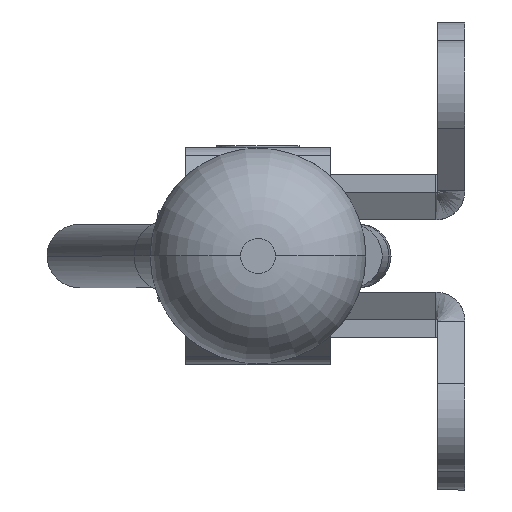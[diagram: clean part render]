
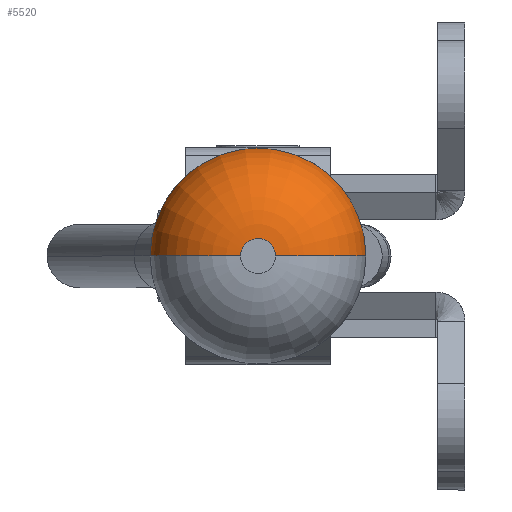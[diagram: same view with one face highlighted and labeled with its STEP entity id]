
A CAD part, left-side view. The second image highlights one B-rep face of the part: STEP entity #5520.
In plain terms, the highlighted toroidal (fillet/blend) face has major radius 1.931 mm and minor radius 10 mm.
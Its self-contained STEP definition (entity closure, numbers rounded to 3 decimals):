
#1238 = CIRCLE ( 'NONE', #6567, 10. ) ;
#2013 = ORIENTED_EDGE ( 'NONE', *, *, #7612, .F. ) ;
#2226 = ORIENTED_EDGE ( 'NONE', *, *, #11963, .F. ) ;
#3247 = CARTESIAN_POINT ( 'NONE',  ( 1.931, 0., 0. ) ) ;
#4004 = DIRECTION ( 'NONE',  ( 1., 0., 0. ) ) ;
#4209 = AXIS2_PLACEMENT_3D ( 'NONE', #4288, #8903, #4004 ) ;
#4288 = CARTESIAN_POINT ( 'NONE',  ( 0., 0., 10.314 ) ) ;
#4430 = CARTESIAN_POINT ( 'NONE',  ( -11.926, 0., 10.314 ) ) ;
#4960 = EDGE_LOOP ( 'NONE', ( #2226, #2013, #16520, #18048 ) ) ;
#5520 = ADVANCED_FACE ( 'NONE', ( #8334 ), #11702, .T. ) ;
#5685 = EDGE_CURVE ( 'NONE', #14703, #11510, #9830, .T. ) ;
#5968 = DIRECTION ( 'NONE',  ( 0., 0., -1. ) ) ;
#6567 = AXIS2_PLACEMENT_3D ( 'NONE', #13957, #15430, #16712 ) ;
#6833 = CARTESIAN_POINT ( 'NONE',  ( -1.931, 0., 0. ) ) ;
#6851 = DIRECTION ( 'NONE',  ( 1., 0., 0. ) ) ;
#7612 = EDGE_CURVE ( 'NONE', #8755, #14390, #18138, .T. ) ;
#8334 = FACE_OUTER_BOUND ( 'NONE', #4960, .T. ) ;
#8755 = VERTEX_POINT ( 'NONE', #3247 ) ;
#8903 = DIRECTION ( 'NONE',  ( 0., 0., 1. ) ) ;
#9830 = CIRCLE ( 'NONE', #4209, 11.926 ) ;
#10472 = CARTESIAN_POINT ( 'NONE',  ( 0., 0., 0. ) ) ;
#10578 = CARTESIAN_POINT ( 'NONE',  ( 11.926, 0., 10.314 ) ) ;
#11383 = AXIS2_PLACEMENT_3D ( 'NONE', #14161, #12806, #6851 ) ;
#11510 = VERTEX_POINT ( 'NONE', #10578 ) ;
#11702 = TOROIDAL_SURFACE ( 'NONE', #11383, 1.931, 10. ) ;
#11963 = EDGE_CURVE ( 'NONE', #14390, #14703, #1238, .T. ) ;
#12194 = AXIS2_PLACEMENT_3D ( 'NONE', #10472, #5968, #16436 ) ;
#12806 = DIRECTION ( 'NONE',  ( 0., 0., 1. ) ) ;
#13957 = CARTESIAN_POINT ( 'NONE',  ( -1.931, 0., 10. ) ) ;
#14160 = CIRCLE ( 'NONE', #14479, 10. ) ;
#14161 = CARTESIAN_POINT ( 'NONE',  ( 0., 0., 10. ) ) ;
#14390 = VERTEX_POINT ( 'NONE', #6833 ) ;
#14479 = AXIS2_PLACEMENT_3D ( 'NONE', #17817, #16350, #16453 ) ;
#14703 = VERTEX_POINT ( 'NONE', #4430 ) ;
#15324 = EDGE_CURVE ( 'NONE', #8755, #11510, #14160, .T. ) ;
#15430 = DIRECTION ( 'NONE',  ( 0., 1., 0. ) ) ;
#16350 = DIRECTION ( 'NONE',  ( 0., -1., 0. ) ) ;
#16436 = DIRECTION ( 'NONE',  ( 1., 0., 0. ) ) ;
#16453 = DIRECTION ( 'NONE',  ( 0., 0., -1. ) ) ;
#16520 = ORIENTED_EDGE ( 'NONE', *, *, #15324, .T. ) ;
#16712 = DIRECTION ( 'NONE',  ( -1., 0., 0. ) ) ;
#17817 = CARTESIAN_POINT ( 'NONE',  ( 1.931, 0., 10. ) ) ;
#18048 = ORIENTED_EDGE ( 'NONE', *, *, #5685, .F. ) ;
#18138 = CIRCLE ( 'NONE', #12194, 1.931 ) ;
